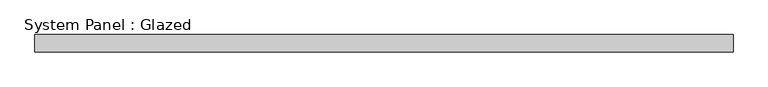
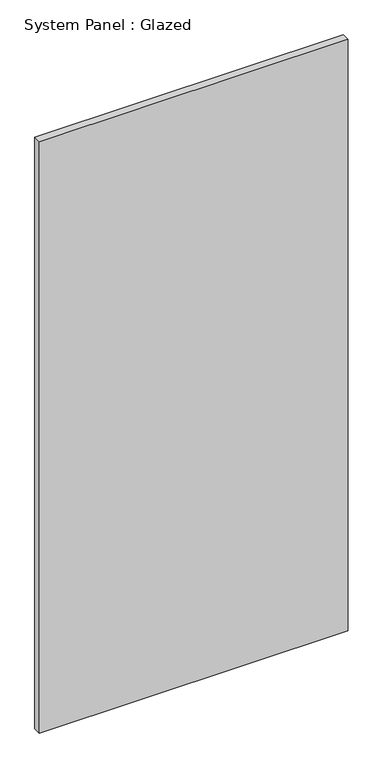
"""IFC4 building model written with IfcOpenShell, lengths in millimetres: plate geometry, System Panel : Glazed."""

from ifc_helpers import new_model, si_unit, origin, origin_with_axes, place, context, project, spatial, polyline, outline, extrude, source, transform, mapped, element, save


def system_panel_glazed_2237517c(model_context):
    return source(origin(), model_context, "Body", "SweptSolid", [
        extrude(outline(polyline([(511.1724693, -44.45), (-511.1724693, -44.45), (-511.1724693, -19.05), (511.1724693, -19.05), (511.1724693, -44.45)])), origin_with_axes(), (0.0, 0.0, 1.0), 2070.1),
    ])


if __name__ == "__main__":
    model = new_model("IFC4")
    model_context = context("Model", 3, world=origin())
    ifc_project = project(units=[si_unit("LENGTHUNIT", "METRE", prefix="MILLI")], contexts=[model_context])
    site = spatial("IfcSite", under=ifc_project)
    building = spatial("IfcBuilding", under=site)
    placement = place(None, origin())
    system_panel_glazed_shape = system_panel_glazed_2237517c(model_context)
    element("IfcPlate", 1, ObjectType="System Panel : Glazed", at=placement, inside=building, context=model_context, shape_type="MappedRepresentation", body=[
        mapped(system_panel_glazed_shape, transform((0.0, 0.0, 0.0), x_axis=(1.0, 0.0, 0.0), y_axis=(0.0, 1.0, 0.0), z_axis=(0.0, 0.0, 1.0))),
    ])
    save(model, "model.ifc")
